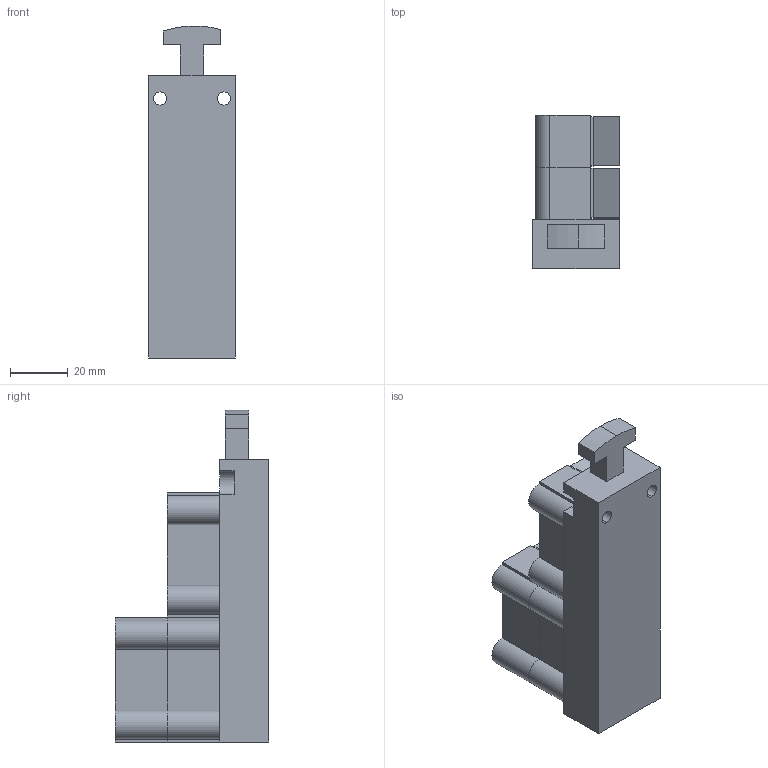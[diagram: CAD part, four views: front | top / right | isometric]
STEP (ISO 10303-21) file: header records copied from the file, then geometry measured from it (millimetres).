
FILE_DESCRIPTION (( 'STEP AP214' ), '1' );
FILE_NAME ('050FI03-12.STEP', '2019-09-16T09:14:28', ( '' ), ( '' ), 'SwSTEP 2.0', 'SolidWorks 2013', '' );
FILE_SCHEMA (( 'AUTOMOTIVE_DESIGN' ));
Length unit declared in the file: millimetre
Products named in the file (1): 050FI03-12
Bounding box: 30 x 53 x 114.5 mm (x, y, z)
Volume: 105799.7 mm3; surface area: 25565.9 mm2
Topology: 4 solids, 4 shells, 85 faces, 213 edges, 140 vertices
Faces by surface type: plane 71, cylinder 14
Entity records: 3513 total; most frequent: CARTESIAN_POINT 439, ORIENTED_EDGE 426, DIRECTION 413, EDGE_CURVE 213, VECTOR 185, LINE 185, VERTEX_POINT 140, AXIS2_PLACEMENT_3D 114
